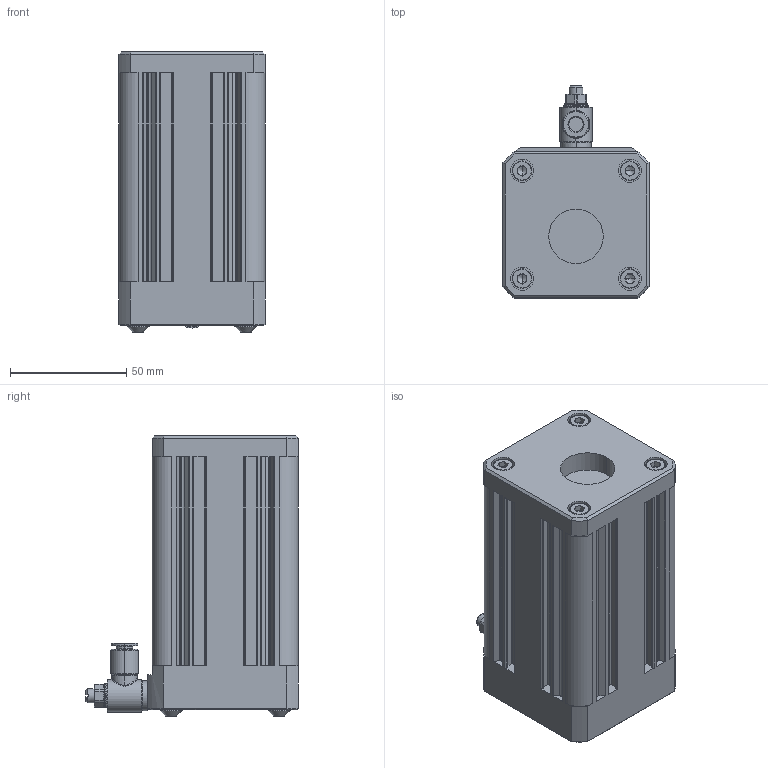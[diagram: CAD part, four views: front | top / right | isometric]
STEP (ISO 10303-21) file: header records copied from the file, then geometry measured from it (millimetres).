
FILE_DESCRIPTION (( 'STEP AP203' ), '1' );
FILE_NAME ('VNOK-B-AL-E-0050-0090.STEP', '2019-02-06T12:53:51', ( '' ), ( '' ), 'SwSTEP 2.0', 'SolidWorks 2018', '' );
FILE_SCHEMA (( 'CONFIG_CONTROL_DESIGN' ));
Length unit declared in the file: millimetre
Products named in the file (1): VNOK-B-AL-E-0050-0090
Bounding box: 63 x 91.6 x 120.75 mm (x, y, z)
Volume: 430086.5 mm3; surface area: 51401.2 mm2
Topology: 2 solids, 13 shells, 563 faces, 1391 edges, 879 vertices
Faces by surface type: plane 278, cylinder 195, bspline 47, cone 43
Entity records: 19277 total; most frequent: CARTESIAN_POINT 5780, DIRECTION 2884, ORIENTED_EDGE 2750, EDGE_CURVE 1375, AXIS2_PLACEMENT_3D 1068, VERTEX_POINT 879, LINE 748, VECTOR 748
